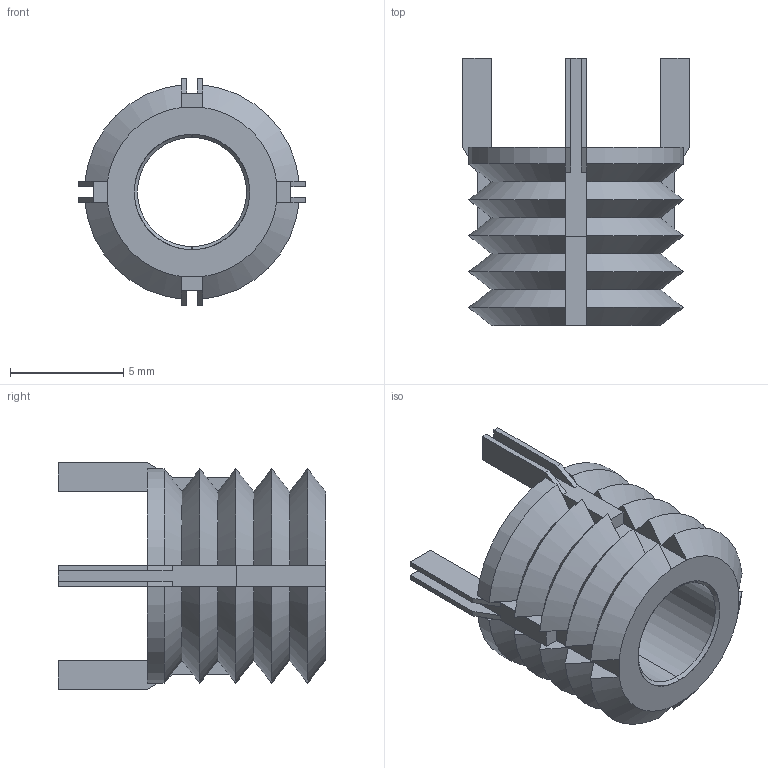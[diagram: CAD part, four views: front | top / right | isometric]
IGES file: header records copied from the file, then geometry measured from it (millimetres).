
Start section: SolidWorks IGES file using analytic representation for surfaces
Global section: file name: C:\Users\IanO\Desktop\TR1575\TR1575_v2_20230420_IGES\TR1575.65901.igs; native system: SolidWorks 2019; preprocessor: SolidWorks 2019; author: IanO; date: 230420.093027; units: inch
Bounding box: 10.02 x 11.81 x 10.02 mm (x, y, z)
Surface area: 690.6 mm2 (no closed solid volume)
Topology: 0 solids, 0 shells, 140 faces, 744 edges, 744 vertices
Faces by surface type: bspline 94, revolution 46
